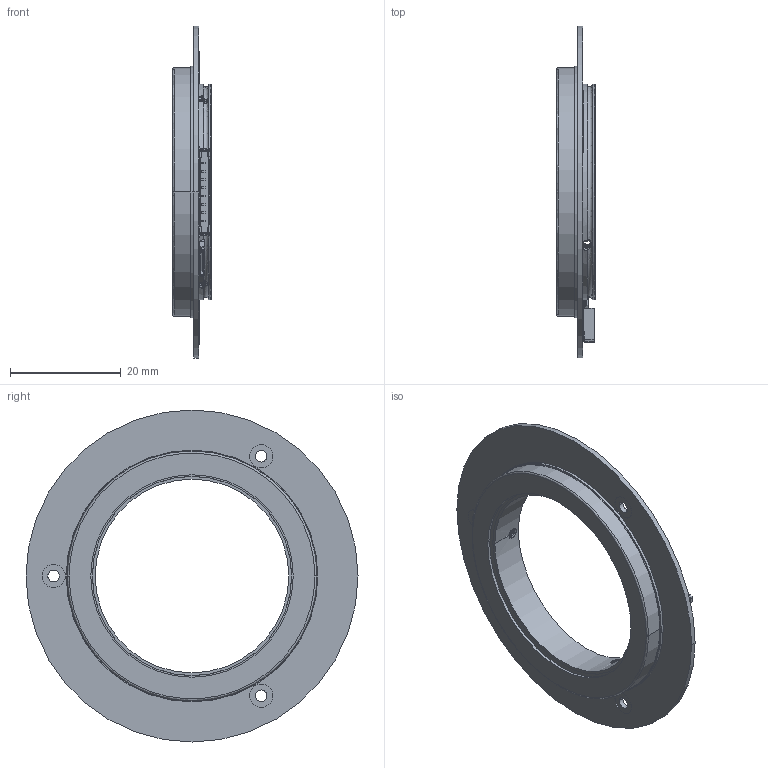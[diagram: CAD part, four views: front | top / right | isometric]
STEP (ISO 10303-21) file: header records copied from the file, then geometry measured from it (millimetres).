
FILE_DESCRIPTION (( 'STEP AP214' ), '1' );
FILE_NAME ('MBS-35-60¸üÐÂ.STEP', '2024-07-16T03:27:26', ( '' ), ( '' ), 'SwSTEP 2.0', 'SolidWorks 2016', '' );
FILE_SCHEMA (( 'AUTOMOTIVE_DESIGN' ));
Length unit declared in the file: millimetre
Products named in the file (1): MBS-35-60載陔
Bounding box: 7.01 x 60 x 60 mm (x, y, z)
Volume: 3344.9 mm3; surface area: 9078.4 mm2
Topology: 6 solids, 46 shells, 1375 faces, 3688 edges, 2410 vertices
Faces by surface type: plane 901, bspline 328, cylinder 137, cone 9
Entity records: 94471 total; most frequent: CARTESIAN_POINT 56083, ORIENTED_EDGE 7338, DIRECTION 5399, EDGE_CURVE 3669, VECTOR 2693, LINE 2693, VERTEX_POINT 2410, EDGE_LOOP 1451
